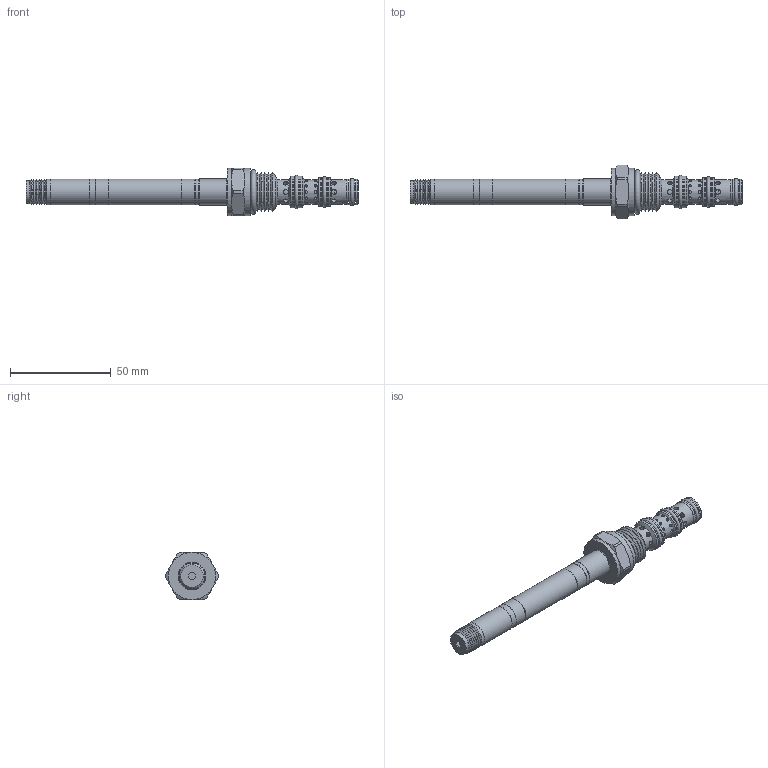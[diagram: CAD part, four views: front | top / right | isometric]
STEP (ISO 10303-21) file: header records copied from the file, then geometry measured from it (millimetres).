
FILE_DESCRIPTION(/* description */ (''),/* implementation_level */ '2;1');
FILE_NAME(/* name */ 'Q:\Delta CADD Insertion Codes\3D Solid models\Solenoid Valves\DWG\HPQS4M00.stp',/* time_stamp */ '2023-01-05T16:03:51-06:00',/* author */ ('Dan'),/* organization */ (''),/* preprocessor_version */ 'ST-DEVELOPER v17',/* originating_system */ 'Autodesk Inventor 2019',/* authorisation */ '');
FILE_SCHEMA (('AUTOMOTIVE_DESIGN { 1 0 10303 214 3 1 1 }'));
Length unit declared in the file: inch
Products named in the file (1): HPQS4M00
Bounding box: 164.87 x 26.49 x 23.55 mm (x, y, z)
Volume: 26392.1 mm3; surface area: 11930.9 mm2
Topology: 11 solids, 11 shells, 227 faces, 630 edges, 452 vertices
Faces by surface type: cylinder 125, cone 53, plane 41, torus 8
Full cylindrical faces by diameter (mm): 1.321 x24, 2.337 x16, 6.35 x1, 7.948 x1, 9.881 x1, 9.931 x2, 11.125 x1, 11.455 x1, 11.506 x2, 12.256 x3, 12.624 x4, 12.675 x3, 12.7 x1, 12.776 x3, 13.005 x1, 13.056 x1, 13.106 x2, 14.199 x4, 15.799 x5, 16.739 x1, 23.546 x2
Entity records: 9995 total; most frequent: CARTESIAN_POINT 4130, ORIENTED_EDGE 1260, DIRECTION 1154, EDGE_CURVE 630, AXIS2_PLACEMENT_3D 500, VERTEX_POINT 452, EDGE_LOOP 290, CIRCLE 272
